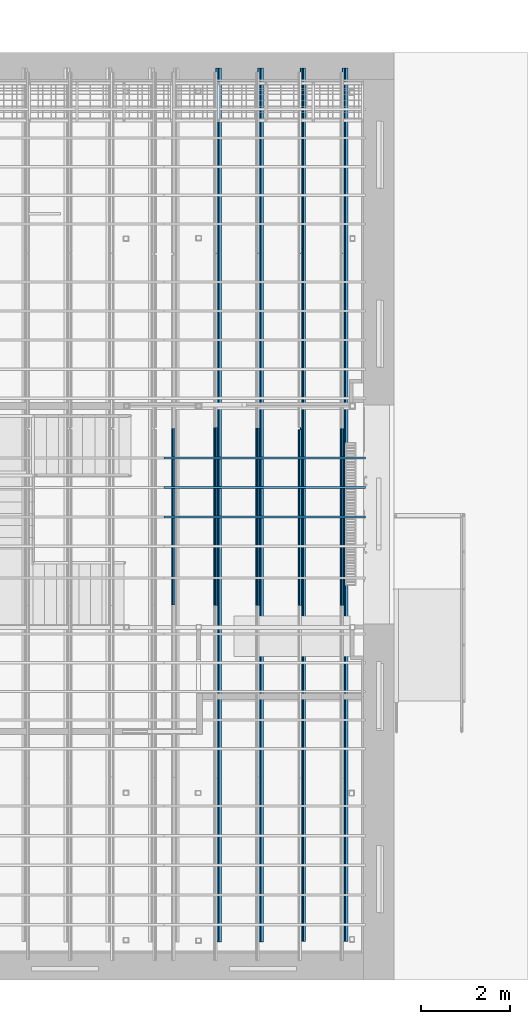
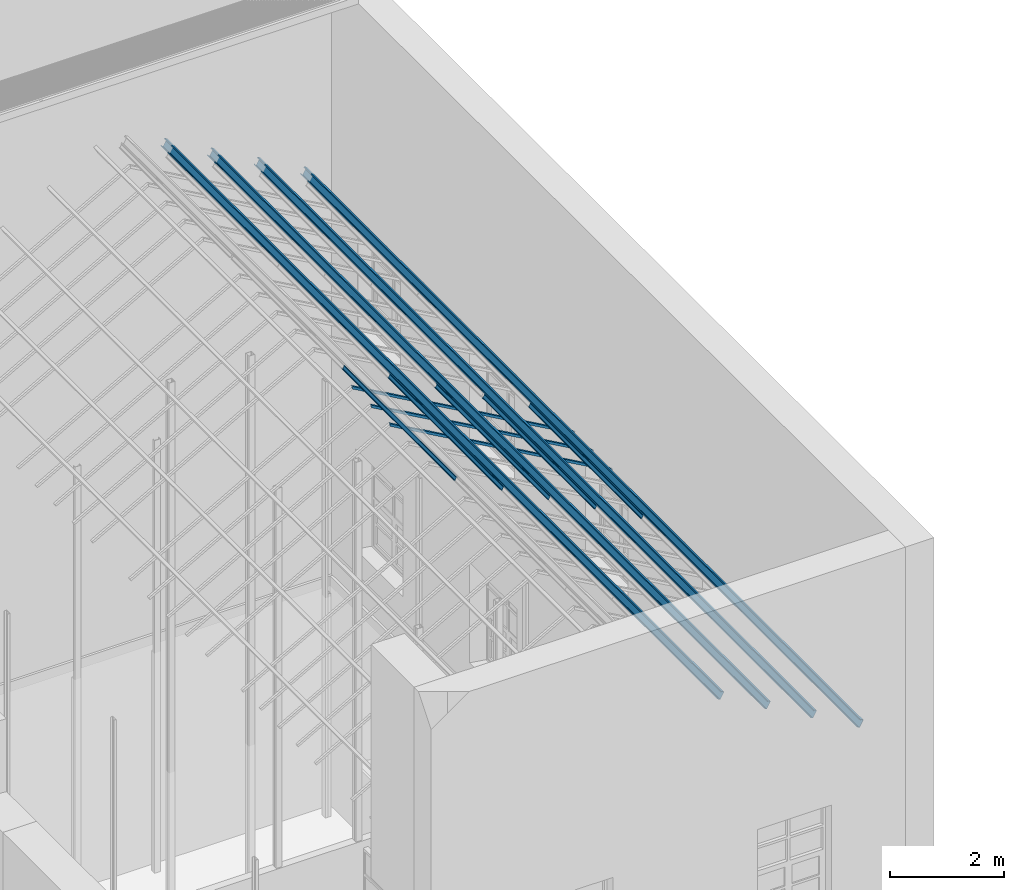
# One storey, part 25 of 75: 12 beams.
"""IFC2X3 building model written with IfcOpenShell, lengths in metres."""

from ifc_helpers import new_model, entity, si_unit, converted_unit, derived_unit, direction, frame, frame_2d, origin, origin_2d_with_axis, place, context, subcontext, project, spatial, polyline, circle_curve, parameter, trimmed, segment, composite_curve, rectangle, outline, extrude, clip, halfspace, material, type_object, element, save


model = new_model("IFC2X3")

# Units and contexts
model_context = context("Model", 3, precision=1e-05, world=origin(), true_north=direction((6.12303176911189e-17, 1.0)))
body_context = subcontext(model_context, "Body", "Model", "MODEL_VIEW")
ifc_project = project(units=[si_unit("LENGTHUNIT", "METRE"), si_unit("AREAUNIT", "SQUARE_METRE"), si_unit("VOLUMEUNIT", "CUBIC_METRE"), converted_unit("PLANEANGLEUNIT", "DEGREE", entity("IfcRatioMeasure", 0.0174532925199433), si_unit("PLANEANGLEUNIT", "RADIAN"), dimensions=[0, 0, 0, 0, 0, 0, 0]), si_unit("MASSUNIT", "GRAM", prefix="KILO"), derived_unit("MASSDENSITYUNIT", [(si_unit("MASSUNIT", "GRAM", prefix="KILO"), 1), (si_unit("LENGTHUNIT", "METRE"), -3)]), derived_unit("MOMENTOFINERTIAUNIT", [(si_unit("LENGTHUNIT", "METRE"), 4)]), si_unit("TIMEUNIT", "SECOND"), si_unit("FREQUENCYUNIT", "HERTZ"), si_unit("THERMODYNAMICTEMPERATUREUNIT", "DEGREE_CELSIUS"), derived_unit("THERMALTRANSMITTANCEUNIT", [(si_unit("MASSUNIT", "GRAM", prefix="KILO"), 1), (si_unit("THERMODYNAMICTEMPERATUREUNIT", "KELVIN"), -1), (si_unit("TIMEUNIT", "SECOND"), -3)]), derived_unit("VOLUMETRICFLOWRATEUNIT", [(si_unit("LENGTHUNIT", "METRE"), 3), (si_unit("TIMEUNIT", "SECOND"), -1)]), si_unit("ELECTRICCURRENTUNIT", "AMPERE"), si_unit("ELECTRICVOLTAGEUNIT", "VOLT"), si_unit("POWERUNIT", "WATT"), si_unit("FORCEUNIT", "NEWTON", prefix="KILO"), si_unit("ILLUMINANCEUNIT", "LUX"), si_unit("LUMINOUSFLUXUNIT", "LUMEN"), si_unit("LUMINOUSINTENSITYUNIT", "CANDELA"), derived_unit("USERDEFINED", [(si_unit("MASSUNIT", "GRAM", prefix="KILO"), -1), (si_unit("LENGTHUNIT", "METRE"), -2), (si_unit("TIMEUNIT", "SECOND"), 3), (si_unit("LUMINOUSFLUXUNIT", "LUMEN"), 1)]), derived_unit("LINEARVELOCITYUNIT", [(si_unit("LENGTHUNIT", "METRE"), 1), (si_unit("TIMEUNIT", "SECOND"), -1)]), si_unit("PRESSUREUNIT", "PASCAL"), derived_unit("USERDEFINED", [(si_unit("LENGTHUNIT", "METRE"), -2), (si_unit("MASSUNIT", "GRAM", prefix="KILO"), 1), (si_unit("TIMEUNIT", "SECOND"), -2)]), derived_unit("LINEARFORCEUNIT", [(si_unit("MASSUNIT", "GRAM", prefix="KILO"), 1), (si_unit("LENGTHUNIT", "METRE"), 1), (si_unit("TIMEUNIT", "SECOND"), -2), (si_unit("LENGTHUNIT", "METRE"), -1)]), derived_unit("PLANARFORCEUNIT", [(si_unit("MASSUNIT", "GRAM", prefix="KILO"), 1), (si_unit("LENGTHUNIT", "METRE"), 1), (si_unit("TIMEUNIT", "SECOND"), -2), (si_unit("LENGTHUNIT", "METRE"), -2)])], contexts=[model_context])

# Site, building, storey
site_placement = place(None, origin())
site = spatial("IfcSite", under=ifc_project, at=site_placement, Name="Superficie", CompositionType="ELEMENT")
building_placement = place(site_placement, origin())
building = spatial("IfcBuilding", under=site, at=building_placement, Name="Telegestiones", CompositionType="ELEMENT")
storey_placement = place(building_placement, origin())
storey = spatial("IfcBuildingStorey", under=building, at=storey_placement, Name="Nivel 0_NPT", CompositionType="ELEMENT", Elevation=0.0)

# Beams
ifc_material_1 = material(Name="Metal - Acero - 345 MPa")
beam_type_1 = type_object("IfcBeamType", Name="EST-PER-C-HGalv:C150X19.3", PredefinedType="NOTDEFINED")
beam_1_placement = place(storey_placement, frame((11.6912749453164, 13.523607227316, 15.0652454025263), z_axis=(0.0, 0.0, 1.0), x_axis=(0.0, -1.0, 0.0)))
element("IfcBeam", 1, at=beam_1_placement, inside=storey, type_object=beam_type_1, material=ifc_material_1, Name="EST-PER-C-HGalv:C150X19.3", ObjectType="EST-PER-C-HGalv:C150X19.3", context=body_context, shape_type="SweptSolid", body=[
    extrude(outline(polyline([(-0.0396666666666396, -0.0800000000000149), (0.0203333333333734, -0.0800000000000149), (0.0203333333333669, -0.0600000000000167), (0.0183333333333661, -0.0600000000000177), (0.0183333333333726, -0.0780000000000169), (-0.0376666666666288, -0.0780000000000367), (-0.0376666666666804, 0.0779999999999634), (0.018333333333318, 0.0779999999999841), (0.0183333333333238, 0.0599999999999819), (0.0203333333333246, 0.0599999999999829), (0.020333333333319, 0.079999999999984), (-0.0396666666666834, 0.0799999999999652), (-0.0396666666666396, -0.0800000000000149)])), frame((-0.470000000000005, 0.0162169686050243, 0.082721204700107), z_axis=(1.0, 0.0, 0.0), x_axis=(0.0, -0.870679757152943, 0.4918503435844)), (0.0, 0.0, 1.0), 19.55),
])
beam_2_placement = place(storey_placement, frame((12.6348741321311, 13.523607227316, 14.532202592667), z_axis=(0.0, 0.0, 1.0), x_axis=(0.0, -1.0, 0.0)))
element("IfcBeam", 2, at=beam_2_placement, inside=storey, type_object=beam_type_1, material=ifc_material_1, Name="EST-PER-C-HGalv:C150X19.3", ObjectType="EST-PER-C-HGalv:C150X19.3", context=body_context, shape_type="SweptSolid", body=[
    extrude(outline(polyline([(-0.0396666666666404, -0.0800000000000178), (0.0203333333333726, -0.0800000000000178), (0.0203333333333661, -0.0600000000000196), (0.0183333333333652, -0.0600000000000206), (0.0183333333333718, -0.0780000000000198), (-0.0376666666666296, -0.0780000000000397), (-0.0376666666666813, 0.0779999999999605), (0.0183333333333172, 0.0779999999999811), (0.0183333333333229, 0.059999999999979), (0.0203333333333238, 0.05999999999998), (0.0203333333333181, 0.0799999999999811), (-0.0396666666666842, 0.0799999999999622), (-0.0396666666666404, -0.0800000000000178)])), frame((-0.470000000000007, 0.0162169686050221, 0.0827212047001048), z_axis=(1.0, 0.0, 0.0), x_axis=(0.0, -0.870679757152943, 0.4918503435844)), (0.0, 0.0, 1.0), 19.55),
])
beam_3_placement = place(storey_placement, frame((13.5784733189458, 13.523607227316, 13.9991597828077), z_axis=(0.0, 0.0, 1.0), x_axis=(0.0, -1.0, 0.0)))
element("IfcBeam", 3, at=beam_3_placement, inside=storey, type_object=beam_type_1, material=ifc_material_1, Name="EST-PER-C-HGalv:C150X19.3", ObjectType="EST-PER-C-HGalv:C150X19.3", context=body_context, shape_type="SweptSolid", body=[
    extrude(outline(polyline([(-0.0396666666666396, -0.0800000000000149), (0.0203333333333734, -0.0800000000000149), (0.0203333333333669, -0.0600000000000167), (0.0183333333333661, -0.0600000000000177), (0.0183333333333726, -0.0780000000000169), (-0.0376666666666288, -0.0780000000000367), (-0.0376666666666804, 0.0779999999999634), (0.018333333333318, 0.0779999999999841), (0.0183333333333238, 0.0599999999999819), (0.0203333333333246, 0.0599999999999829), (0.020333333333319, 0.079999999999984), (-0.0396666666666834, 0.0799999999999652), (-0.0396666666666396, -0.0800000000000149)])), frame((-0.47000000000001, 0.0162169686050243, 0.082721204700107), z_axis=(1.0, 0.0, 0.0), x_axis=(0.0, -0.870679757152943, 0.4918503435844)), (0.0, 0.0, 1.0), 19.5369148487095),
])
beam_4_placement = place(storey_placement, frame((14.5220725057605, 13.523607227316, 13.4661169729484), z_axis=(0.0, 0.0, 1.0), x_axis=(0.0, -1.0, 0.0)))
element("IfcBeam", 4, at=beam_4_placement, inside=storey, type_object=beam_type_1, material=ifc_material_1, Name="EST-PER-C-HGalv:C150X19.3", ObjectType="EST-PER-C-HGalv:C150X19.3", context=body_context, shape_type="SweptSolid", body=[
    extrude(outline(polyline([(-0.0396666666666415, -0.0800000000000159), (0.0203333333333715, -0.0800000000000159), (0.0203333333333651, -0.0600000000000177), (0.0183333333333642, -0.0600000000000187), (0.0183333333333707, -0.0780000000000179), (-0.0376666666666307, -0.0780000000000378), (-0.0376666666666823, 0.0779999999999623), (0.0183333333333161, 0.077999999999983), (0.0183333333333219, 0.0599999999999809), (0.0203333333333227, 0.0599999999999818), (0.0203333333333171, 0.079999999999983), (-0.0396666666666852, 0.0799999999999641), (-0.0396666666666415, -0.0800000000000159)])), frame((-0.470000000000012, 0.0162169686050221, 0.082721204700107), z_axis=(1.0, 0.0, 0.0), x_axis=(0.0, -0.870679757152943, 0.4918503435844)), (0.0, 0.0, 1.0), 19.537),
])
beam_type_2 = type_object("IfcBeamType", Name="IPN - Secciones en I con alas cónicas:IPN 80", PredefinedType="NOTDEFINED")
beam_5_placement = place(storey_placement, frame((10.7251251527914, 1.99560722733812, 15.6110271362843), z_axis=(0.0, 0.0, 1.0), x_axis=(0.0, 1.0, 0.0)))
element("IfcBeam", 5, at=beam_5_placement, inside=storey, type_object=beam_type_2, material=ifc_material_1, Name="IPN - Secciones en I con alas cónicas:IPN 80", ObjectType="IPN - Secciones en I con alas cónicas:IPN 80", context=body_context, shape_type="SweptSolid", body=[
    extrude(outline(composite_curve([segment(polyline([(0.037570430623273, -0.021000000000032), (0.0399999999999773, -0.021000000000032)]), True, "CONTINUOUS"), segment(polyline([(0.0399999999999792, -0.021000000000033), (0.0400000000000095, 0.0209999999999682)]), True, "CONTINUOUS"), segment(polyline([(0.0400000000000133, 0.0209999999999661), (0.0375704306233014, 0.0209999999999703)]), True, "CONTINUOUS"), segment(trimmed(circle_curve(frame_2d((0.0375704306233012, 0.0186999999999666), x_axis=(0.0, 1.0)), 0.00230000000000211), [parameter(0.0)], [parameter(82.0303896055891)], True, "PARAMETER"), True, "CONTINUOUS"), segment(polyline([(0.035292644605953, 0.0190188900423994), (0.0333732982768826, 0.00530927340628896)]), True, "CONTINUOUS"), segment(trimmed(circle_curve(frame_2d((0.029510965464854, 0.00584999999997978), x_axis=(0.990341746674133, -0.138647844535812)), 0.00390000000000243), [parameter(277.969610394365)], [parameter(0.0)], True, "PARAMETER"), False, "CONTINUOUS"), segment(polyline([(0.0295109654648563, 0.00194999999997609), (-0.0295109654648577, 0.00195000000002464)]), True, "CONTINUOUS"), segment(trimmed(circle_curve(frame_2d((-0.0295109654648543, 0.00585000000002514), x_axis=(0.0, -1.0)), 0.0038999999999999), [parameter(277.969610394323)], [parameter(0.0)], True, "PARAMETER"), False, "CONTINUOUS"), segment(polyline([(-0.033373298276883, 0.00530927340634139), (-0.0352926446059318, 0.0190188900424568)]), True, "CONTINUOUS"), segment(trimmed(circle_curve(frame_2d((-0.0375704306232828, 0.0187000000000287), x_axis=(0.990341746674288, 0.13864784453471)), 0.00230000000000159), [parameter(0.0)], [parameter(82.0303896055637)], True, "PARAMETER"), True, "CONTINUOUS"), segment(polyline([(-0.0375704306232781, 0.0210000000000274), (-0.03999999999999, 0.0210000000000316)]), True, "CONTINUOUS"), segment(polyline([(-0.0399999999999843, 0.0210000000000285), (-0.0400000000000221, -0.0209999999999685)]), True, "CONTINUOUS"), segment(polyline([(-0.0400000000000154, -0.0209999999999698), (-0.037570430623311, -0.0209999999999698)]), True, "CONTINUOUS"), segment(trimmed(circle_curve(frame_2d((-0.0375704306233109, -0.0186999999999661), x_axis=(0.0, -1.0)), 0.00230000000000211), [parameter(0.0)], [parameter(82.0303896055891)], True, "PARAMETER"), True, "CONTINUOUS"), segment(polyline([(-0.0352926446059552, -0.0190188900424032), (-0.0333732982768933, -0.00530927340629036)]), True, "CONTINUOUS"), segment(trimmed(circle_curve(frame_2d((-0.0295109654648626, -0.00584999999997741), x_axis=(-0.990341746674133, 0.138647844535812)), 0.00390000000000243), [parameter(277.969610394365)], [parameter(0.0)], True, "PARAMETER"), False, "CONTINUOUS"), segment(polyline([(-0.0295109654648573, -0.00194999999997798), (0.029510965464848, -0.00195000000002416)]), True, "CONTINUOUS"), segment(trimmed(circle_curve(frame_2d((0.0295109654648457, -0.00585000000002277), x_axis=(0.0, 1.0)), 0.0038999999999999), [parameter(277.969610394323)], [parameter(0.0)], True, "PARAMETER"), False, "CONTINUOUS"), segment(polyline([(0.0333732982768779, -0.00530927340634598), (0.0352926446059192, -0.0190188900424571)]), True, "CONTINUOUS"), segment(trimmed(circle_curve(frame_2d((0.0375704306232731, -0.0187000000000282), x_axis=(-0.990341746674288, -0.13864784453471)), 0.00230000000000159), [parameter(0.0)], [parameter(82.0303896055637)], True, "PARAMETER"), True, "CONTINUOUS")], self_intersect=False)), frame((-0.0138500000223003, 0.024592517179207, -0.0435339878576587), z_axis=(1.0, 0.0, 0.0), x_axis=(0.0, -0.491850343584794, 0.87067975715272)), (0.0, 0.0, 1.0), 3.94789231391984),
])
beam_6_placement = place(storey_placement, frame((14.4995219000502, 1.98480722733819, 13.4788558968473), z_axis=(0.0, 0.0, 1.0), x_axis=(0.0, 1.0, 0.0)))
element("IfcBeam", 6, at=beam_6_placement, inside=storey, type_object=beam_type_2, material=ifc_material_1, Name="IPN - Secciones en I con alas cónicas:IPN 80", ObjectType="IPN - Secciones en I con alas cónicas:IPN 80", context=body_context, shape_type="SweptSolid", body=[
    extrude(outline(composite_curve([segment(polyline([(0.0375704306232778, -0.0210000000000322), (0.0399999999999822, -0.0210000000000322)]), True, "CONTINUOUS"), segment(polyline([(0.0399999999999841, -0.0210000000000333), (0.0400000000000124, 0.020999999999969)]), True, "CONTINUOUS"), segment(polyline([(0.0400000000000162, 0.0209999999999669), (0.0375704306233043, 0.0209999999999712)]), True, "CONTINUOUS"), segment(trimmed(circle_curve(frame_2d((0.0375704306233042, 0.0186999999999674), x_axis=(0.0, 1.0)), 0.00230000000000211), [parameter(0.0)], [parameter(82.0303896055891)], True, "PARAMETER"), True, "CONTINUOUS"), segment(polyline([(0.0352926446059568, 0.0190188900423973), (0.0333732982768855, 0.00530927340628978)]), True, "CONTINUOUS"), segment(trimmed(circle_curve(frame_2d((0.029510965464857, 0.0058499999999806), x_axis=(0.990341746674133, -0.138647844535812)), 0.00390000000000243), [parameter(277.969610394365)], [parameter(0.0)], True, "PARAMETER"), False, "CONTINUOUS"), segment(polyline([(0.0295109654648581, 0.00194999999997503), (-0.0295109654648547, 0.00195000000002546)]), True, "CONTINUOUS"), segment(trimmed(circle_curve(frame_2d((-0.0295109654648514, 0.00585000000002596), x_axis=(0.0, -1.0)), 0.0038999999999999), [parameter(277.969610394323)], [parameter(0.0)], True, "PARAMETER"), False, "CONTINUOUS"), segment(polyline([(-0.0333732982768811, 0.00530927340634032), (-0.0352926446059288, 0.0190188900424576)]), True, "CONTINUOUS"), segment(trimmed(circle_curve(frame_2d((-0.0375704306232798, 0.0187000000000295), x_axis=(0.990341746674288, 0.13864784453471)), 0.00230000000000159), [parameter(0.0)], [parameter(82.0303896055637)], True, "PARAMETER"), True, "CONTINUOUS"), segment(polyline([(-0.0375704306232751, 0.0210000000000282), (-0.039999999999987, 0.0210000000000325)]), True, "CONTINUOUS"), segment(polyline([(-0.0399999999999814, 0.0210000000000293), (-0.0400000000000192, -0.0209999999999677)]), True, "CONTINUOUS"), segment(polyline([(-0.0400000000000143, -0.020999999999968), (-0.03757043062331, -0.020999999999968)]), True, "CONTINUOUS"), segment(trimmed(circle_curve(frame_2d((-0.0375704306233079, -0.0186999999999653), x_axis=(0.0, -1.0)), 0.00230000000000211), [parameter(0.0)], [parameter(82.0303896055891)], True, "PARAMETER"), True, "CONTINUOUS"), segment(polyline([(-0.035292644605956, -0.0190188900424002), (-0.0333732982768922, -0.00530927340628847)]), True, "CONTINUOUS"), segment(trimmed(circle_curve(frame_2d((-0.0295109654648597, -0.00584999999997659), x_axis=(-0.990341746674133, 0.138647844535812)), 0.00390000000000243), [parameter(277.969610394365)], [parameter(0.0)], True, "PARAMETER"), False, "CONTINUOUS"), segment(polyline([(-0.0295109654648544, -0.00194999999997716), (0.029510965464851, -0.00195000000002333)]), True, "CONTINUOUS"), segment(trimmed(circle_curve(frame_2d((0.0295109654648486, -0.00585000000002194), x_axis=(0.0, 1.0)), 0.0038999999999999), [parameter(277.969610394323)], [parameter(0.0)], True, "PARAMETER"), False, "CONTINUOUS"), segment(polyline([(0.0333732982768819, -0.00530927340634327), (0.0352926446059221, -0.0190188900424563)]), True, "CONTINUOUS"), segment(trimmed(circle_curve(frame_2d((0.0375704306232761, -0.0187000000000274), x_axis=(-0.990341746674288, -0.13864784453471)), 0.00230000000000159), [parameter(0.0)], [parameter(82.0303896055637)], True, "PARAMETER"), True, "CONTINUOUS")], self_intersect=False)), frame((-0.0138500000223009, 0.0245925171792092, -0.0435339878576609), z_axis=(1.0, 0.0, 0.0), x_axis=(0.0, -0.491850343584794, 0.87067975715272)), (0.0, 0.0, 1.0), 3.9608500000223),
])
beam_7_placement = place(storey_placement, frame((11.6687243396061, 1.9848072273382, 15.0779843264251), z_axis=(0.0, 0.0, 1.0), x_axis=(0.0, 1.0, 0.0)))
element("IfcBeam", 7, at=beam_7_placement, inside=storey, type_object=beam_type_2, material=ifc_material_1, Name="IPN - Secciones en I con alas cónicas:IPN 80", ObjectType="IPN - Secciones en I con alas cónicas:IPN 80", context=body_context, shape_type="SweptSolid", body=[
    extrude(outline(composite_curve([segment(polyline([(0.0375704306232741, -0.0210000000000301), (0.0399999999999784, -0.0210000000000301)]), True, "CONTINUOUS"), segment(polyline([(0.0399999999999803, -0.0210000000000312), (0.0400000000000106, 0.0209999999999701)]), True, "CONTINUOUS"), segment(polyline([(0.0400000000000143, 0.020999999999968), (0.0375704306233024, 0.0209999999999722)]), True, "CONTINUOUS"), segment(trimmed(circle_curve(frame_2d((0.0375704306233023, 0.0186999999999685), x_axis=(0.0, 1.0)), 0.00230000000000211), [parameter(0.0)], [parameter(82.0303896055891)], True, "PARAMETER"), True, "CONTINUOUS"), segment(polyline([(0.0352926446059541, 0.0190188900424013), (0.0333732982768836, 0.00530927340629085)]), True, "CONTINUOUS"), segment(trimmed(circle_curve(frame_2d((0.0295109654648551, 0.00584999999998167), x_axis=(0.990341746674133, -0.138647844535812)), 0.00390000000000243), [parameter(277.969610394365)], [parameter(0.0)], True, "PARAMETER"), False, "CONTINUOUS"), segment(polyline([(0.0295109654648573, 0.00194999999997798), (-0.0295109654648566, 0.00195000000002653)]), True, "CONTINUOUS"), segment(trimmed(circle_curve(frame_2d((-0.0295109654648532, 0.00585000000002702), x_axis=(0.0, -1.0)), 0.0038999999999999), [parameter(277.969610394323)], [parameter(0.0)], True, "PARAMETER"), False, "CONTINUOUS"), segment(polyline([(-0.0333732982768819, 0.00530927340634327), (-0.0352926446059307, 0.0190188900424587)]), True, "CONTINUOUS"), segment(trimmed(circle_curve(frame_2d((-0.0375704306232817, 0.0187000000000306), x_axis=(0.990341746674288, 0.13864784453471)), 0.00230000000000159), [parameter(0.0)], [parameter(82.0303896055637)], True, "PARAMETER"), True, "CONTINUOUS"), segment(polyline([(-0.037570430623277, 0.0210000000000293), (-0.0399999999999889, 0.0210000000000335)]), True, "CONTINUOUS"), segment(polyline([(-0.0399999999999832, 0.0210000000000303), (-0.040000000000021, -0.0209999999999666)]), True, "CONTINUOUS"), segment(polyline([(-0.0400000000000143, -0.020999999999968), (-0.03757043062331, -0.020999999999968)]), True, "CONTINUOUS"), segment(trimmed(circle_curve(frame_2d((-0.0375704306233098, -0.0186999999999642), x_axis=(0.0, -1.0)), 0.00230000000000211), [parameter(0.0)], [parameter(82.0303896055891)], True, "PARAMETER"), True, "CONTINUOUS"), segment(polyline([(-0.0352926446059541, -0.0190188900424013), (-0.0333732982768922, -0.00530927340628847)]), True, "CONTINUOUS"), segment(trimmed(circle_curve(frame_2d((-0.0295109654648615, -0.00584999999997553), x_axis=(-0.990341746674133, 0.138647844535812)), 0.00390000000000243), [parameter(277.969610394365)], [parameter(0.0)], True, "PARAMETER"), False, "CONTINUOUS"), segment(polyline([(-0.0295109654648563, -0.00194999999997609), (0.0295109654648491, -0.00195000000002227)]), True, "CONTINUOUS"), segment(trimmed(circle_curve(frame_2d((0.0295109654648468, -0.00585000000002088), x_axis=(0.0, 1.0)), 0.0038999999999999), [parameter(277.969610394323)], [parameter(0.0)], True, "PARAMETER"), False, "CONTINUOUS"), segment(polyline([(0.033373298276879, -0.00530927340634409), (0.0352926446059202, -0.0190188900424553)]), True, "CONTINUOUS"), segment(trimmed(circle_curve(frame_2d((0.0375704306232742, -0.0187000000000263), x_axis=(-0.990341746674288, -0.13864784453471)), 0.00230000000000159), [parameter(0.0)], [parameter(82.0303896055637)], True, "PARAMETER"), True, "CONTINUOUS")], self_intersect=False)), frame((-0.0138500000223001, 0.0245925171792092, -0.0435339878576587), z_axis=(1.0, 0.0, 0.0), x_axis=(0.0, -0.491850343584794, 0.87067975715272)), (0.0, 0.0, 1.0), 3.98865000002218),
])
beam_8_placement = place(storey_placement, frame((12.6123235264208, 1.9848072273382, 14.5449415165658), z_axis=(0.0, 0.0, 1.0), x_axis=(0.0, 1.0, 0.0)))
element("IfcBeam", 8, at=beam_8_placement, inside=storey, type_object=beam_type_2, material=ifc_material_1, Name="IPN - Secciones en I con alas cónicas:IPN 80", ObjectType="IPN - Secciones en I con alas cónicas:IPN 80", context=body_context, shape_type="SweptSolid", body=[
    extrude(outline(composite_curve([segment(polyline([(0.0375704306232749, -0.021000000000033), (0.0399999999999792, -0.021000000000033)]), True, "CONTINUOUS"), segment(polyline([(0.0399999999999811, -0.0210000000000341), (0.0400000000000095, 0.0209999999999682)]), True, "CONTINUOUS"), segment(polyline([(0.0400000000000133, 0.0209999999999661), (0.0375704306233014, 0.0209999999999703)]), True, "CONTINUOUS"), segment(trimmed(circle_curve(frame_2d((0.0375704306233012, 0.0186999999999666), x_axis=(0.0, 1.0)), 0.00230000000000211), [parameter(0.0)], [parameter(82.0303896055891)], True, "PARAMETER"), True, "CONTINUOUS"), segment(polyline([(0.0352926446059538, 0.0190188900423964), (0.0333732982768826, 0.00530927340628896)]), True, "CONTINUOUS"), segment(trimmed(circle_curve(frame_2d((0.029510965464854, 0.00584999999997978), x_axis=(0.990341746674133, -0.138647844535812)), 0.00390000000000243), [parameter(277.969610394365)], [parameter(0.0)], True, "PARAMETER"), False, "CONTINUOUS"), segment(polyline([(0.0295109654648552, 0.00194999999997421), (-0.0295109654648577, 0.00195000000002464)]), True, "CONTINUOUS"), segment(trimmed(circle_curve(frame_2d((-0.0295109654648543, 0.00585000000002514), x_axis=(0.0, -1.0)), 0.0038999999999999), [parameter(277.969610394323)], [parameter(0.0)], True, "PARAMETER"), False, "CONTINUOUS"), segment(polyline([(-0.033373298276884, 0.0053092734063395), (-0.0352926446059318, 0.0190188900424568)]), True, "CONTINUOUS"), segment(trimmed(circle_curve(frame_2d((-0.0375704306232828, 0.0187000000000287), x_axis=(0.990341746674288, 0.13864784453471)), 0.00230000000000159), [parameter(0.0)], [parameter(82.0303896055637)], True, "PARAMETER"), True, "CONTINUOUS"), segment(polyline([(-0.0375704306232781, 0.0210000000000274), (-0.03999999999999, 0.0210000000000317)]), True, "CONTINUOUS"), segment(polyline([(-0.0399999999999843, 0.0210000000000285), (-0.0400000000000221, -0.0209999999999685)]), True, "CONTINUOUS"), segment(polyline([(-0.0400000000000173, -0.0209999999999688), (-0.0375704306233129, -0.0209999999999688)]), True, "CONTINUOUS"), segment(trimmed(circle_curve(frame_2d((-0.0375704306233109, -0.0186999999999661), x_axis=(0.0, -1.0)), 0.00230000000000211), [parameter(0.0)], [parameter(82.0303896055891)], True, "PARAMETER"), True, "CONTINUOUS"), segment(polyline([(-0.0352926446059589, -0.019018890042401), (-0.0333732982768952, -0.00530927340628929)]), True, "CONTINUOUS"), segment(trimmed(circle_curve(frame_2d((-0.0295109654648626, -0.00584999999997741), x_axis=(-0.990341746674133, 0.138647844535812)), 0.00390000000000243), [parameter(277.969610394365)], [parameter(0.0)], True, "PARAMETER"), False, "CONTINUOUS"), segment(polyline([(-0.0295109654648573, -0.00194999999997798), (0.029510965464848, -0.00195000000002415)]), True, "CONTINUOUS"), segment(trimmed(circle_curve(frame_2d((0.0295109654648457, -0.00585000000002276), x_axis=(0.0, 1.0)), 0.0038999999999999), [parameter(277.969610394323)], [parameter(0.0)], True, "PARAMETER"), False, "CONTINUOUS"), segment(polyline([(0.033373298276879, -0.00530927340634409), (0.0352926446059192, -0.0190188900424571)]), True, "CONTINUOUS"), segment(trimmed(circle_curve(frame_2d((0.0375704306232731, -0.0187000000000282), x_axis=(-0.990341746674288, -0.13864784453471)), 0.00230000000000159), [parameter(0.0)], [parameter(82.0303896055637)], True, "PARAMETER"), True, "CONTINUOUS")], self_intersect=False)), frame((-0.0138500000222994, 0.024592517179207, -0.0435339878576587), z_axis=(1.0, 0.0, 0.0), x_axis=(0.0, -0.491850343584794, 0.87067975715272)), (0.0, 0.0, 1.0), 3.97365000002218),
])
beam_9_placement = place(storey_placement, frame((13.5559227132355, 1.9848072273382, 14.0118987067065), z_axis=(0.0, 0.0, 1.0), x_axis=(0.0, 1.0, 0.0)))
element("IfcBeam", 9, at=beam_9_placement, inside=storey, type_object=beam_type_2, material=ifc_material_1, Name="IPN - Secciones en I con alas cónicas:IPN 80", ObjectType="IPN - Secciones en I con alas cónicas:IPN 80", context=body_context, shape_type="SweptSolid", body=[
    extrude(outline(composite_curve([segment(polyline([(0.037570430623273, -0.021000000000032), (0.0399999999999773, -0.021000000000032)]), True, "CONTINUOUS"), segment(polyline([(0.0399999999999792, -0.021000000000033), (0.0400000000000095, 0.0209999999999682)]), True, "CONTINUOUS"), segment(polyline([(0.0400000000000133, 0.0209999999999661), (0.0375704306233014, 0.0209999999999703)]), True, "CONTINUOUS"), segment(trimmed(circle_curve(frame_2d((0.0375704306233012, 0.0186999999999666), x_axis=(0.0, 1.0)), 0.00230000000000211), [parameter(0.0)], [parameter(82.0303896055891)], True, "PARAMETER"), True, "CONTINUOUS"), segment(polyline([(0.035292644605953, 0.0190188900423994), (0.0333732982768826, 0.00530927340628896)]), True, "CONTINUOUS"), segment(trimmed(circle_curve(frame_2d((0.029510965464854, 0.00584999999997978), x_axis=(0.990341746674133, -0.138647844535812)), 0.00390000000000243), [parameter(277.969610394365)], [parameter(0.0)], True, "PARAMETER"), False, "CONTINUOUS"), segment(polyline([(0.0295109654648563, 0.00194999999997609), (-0.0295109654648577, 0.00195000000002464)]), True, "CONTINUOUS"), segment(trimmed(circle_curve(frame_2d((-0.0295109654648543, 0.00585000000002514), x_axis=(0.0, -1.0)), 0.0038999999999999), [parameter(277.969610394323)], [parameter(0.0)], True, "PARAMETER"), False, "CONTINUOUS"), segment(polyline([(-0.033373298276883, 0.00530927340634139), (-0.0352926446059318, 0.0190188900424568)]), True, "CONTINUOUS"), segment(trimmed(circle_curve(frame_2d((-0.0375704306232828, 0.0187000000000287), x_axis=(0.990341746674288, 0.13864784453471)), 0.00230000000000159), [parameter(0.0)], [parameter(82.0303896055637)], True, "PARAMETER"), True, "CONTINUOUS"), segment(polyline([(-0.0375704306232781, 0.0210000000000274), (-0.03999999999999, 0.0210000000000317)]), True, "CONTINUOUS"), segment(polyline([(-0.0399999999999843, 0.0210000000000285), (-0.0400000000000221, -0.0209999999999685)]), True, "CONTINUOUS"), segment(polyline([(-0.0400000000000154, -0.0209999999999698), (-0.037570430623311, -0.0209999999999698)]), True, "CONTINUOUS"), segment(trimmed(circle_curve(frame_2d((-0.0375704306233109, -0.0186999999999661), x_axis=(0.0, -1.0)), 0.00230000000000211), [parameter(0.0)], [parameter(82.0303896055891)], True, "PARAMETER"), True, "CONTINUOUS"), segment(polyline([(-0.0352926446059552, -0.0190188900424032), (-0.0333732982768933, -0.00530927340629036)]), True, "CONTINUOUS"), segment(trimmed(circle_curve(frame_2d((-0.0295109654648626, -0.00584999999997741), x_axis=(-0.990341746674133, 0.138647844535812)), 0.00390000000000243), [parameter(277.969610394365)], [parameter(0.0)], True, "PARAMETER"), False, "CONTINUOUS"), segment(polyline([(-0.0295109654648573, -0.00194999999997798), (0.029510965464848, -0.00195000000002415)]), True, "CONTINUOUS"), segment(trimmed(circle_curve(frame_2d((0.0295109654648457, -0.00585000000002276), x_axis=(0.0, 1.0)), 0.0038999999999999), [parameter(277.969610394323)], [parameter(0.0)], True, "PARAMETER"), False, "CONTINUOUS"), segment(polyline([(0.0333732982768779, -0.00530927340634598), (0.0352926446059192, -0.0190188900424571)]), True, "CONTINUOUS"), segment(trimmed(circle_curve(frame_2d((0.0375704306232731, -0.0187000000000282), x_axis=(-0.990341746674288, -0.13864784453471)), 0.00230000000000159), [parameter(0.0)], [parameter(82.0303896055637)], True, "PARAMETER"), True, "CONTINUOUS")], self_intersect=False)), frame((-0.0138500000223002, 0.024592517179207, -0.0435339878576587), z_axis=(1.0, 0.0, 0.0), x_axis=(0.0, -0.491850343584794, 0.87067975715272)), (0.0, 0.0, 1.0), 3.93865000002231),
])
ifc_material_2 = material(Name="Madera - Madera de construcción")
beam_type_3 = type_object("IfcBeamType", Name="Madera:50x50mm", PredefinedType="NOTDEFINED")
beam_10_placement = place(storey_placement, frame((14.9763682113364, 5.27344056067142, 13.2094835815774), z_axis=(0.491850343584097, 0.0, 0.870679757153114), x_axis=(-0.870679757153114, 0.0, 0.491850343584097)))
element("IfcBeam", 10, at=beam_10_placement, inside=storey, type_object=beam_type_3, material=ifc_material_2, Name="Madera:50x50mm", ObjectType="Madera:50x50mm", context=body_context, shape_type="SweptSolid", body=[
    clip(extrude(rectangle(XDim=0.0499999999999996, YDim=0.0500000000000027, at=origin_2d_with_axis()), frame((-0.0851437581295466, 0.0, -0.115000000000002), z_axis=(1.0, 0.0, 0.0), x_axis=(0.0, 0.0, -1.0)), (0.0, 0.0, 1.0), 5.18302027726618), halfspace(frame((5.06963132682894, 0.0, -0.140000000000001), z_axis=(0.870679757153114, 0.0, -0.491850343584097), x_axis=(0.0, -1.0, 0.0)), False)),
])
beam_11_placement = place(storey_placement, frame((14.9763682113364, 4.61427389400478, 13.2094835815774), z_axis=(0.491850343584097, 0.0, 0.870679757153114), x_axis=(-0.870679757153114, 0.0, 0.491850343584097)))
element("IfcBeam", 11, at=beam_11_placement, inside=storey, type_object=beam_type_3, material=ifc_material_2, Name="Madera:50x50mm", ObjectType="Madera:50x50mm", context=body_context, shape_type="SweptSolid", body=[
    clip(extrude(rectangle(XDim=0.0499999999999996, YDim=0.0500000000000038, at=origin_2d_with_axis()), frame((-0.0851437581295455, 0.0, -0.115000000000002), z_axis=(1.0, 0.0, 0.0), x_axis=(0.0, 0.0, -1.0)), (0.0, 0.0, 1.0), 5.18302027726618), halfspace(frame((5.06963132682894, 0.0, -0.140000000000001), z_axis=(0.870679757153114, 0.0, -0.491850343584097), x_axis=(0.0, -1.0, 0.0)), False)),
])
beam_12_placement = place(storey_placement, frame((14.9763682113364, 3.95510722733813, 13.2094835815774), z_axis=(0.491850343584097, 0.0, 0.870679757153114), x_axis=(-0.870679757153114, 0.0, 0.491850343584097)))
element("IfcBeam", 12, at=beam_12_placement, inside=storey, type_object=beam_type_3, material=ifc_material_2, Name="Madera:50x50mm", ObjectType="Madera:50x50mm", context=body_context, shape_type="SweptSolid", body=[
    clip(extrude(rectangle(XDim=0.0500000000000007, YDim=0.0500000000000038, at=frame_2d((-1.47451495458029e-15, 0.0), x_axis=(1.0, 0.0))), frame((-0.0851437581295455, 0.0, -0.115000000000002), z_axis=(1.0, 0.0, 0.0), x_axis=(0.0, 0.0, -1.0)), (0.0, 0.0, 1.0), 5.18302027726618), halfspace(frame((5.06963132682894, 0.0, -0.140000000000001), z_axis=(0.870679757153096, 0.0, -0.49185034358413), x_axis=(0.0, -1.0, 0.0)), False)),
])

save(model, "model.ifc")
